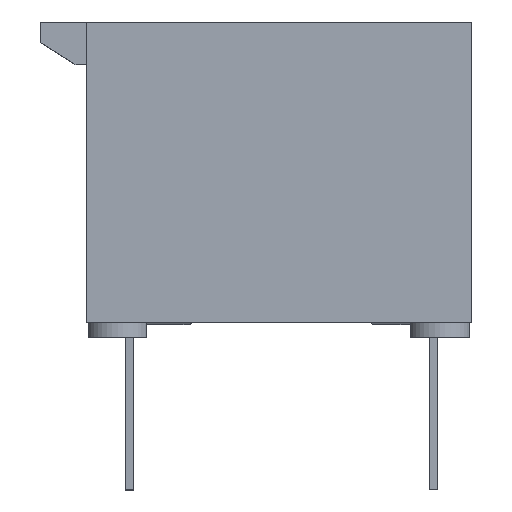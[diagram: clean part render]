
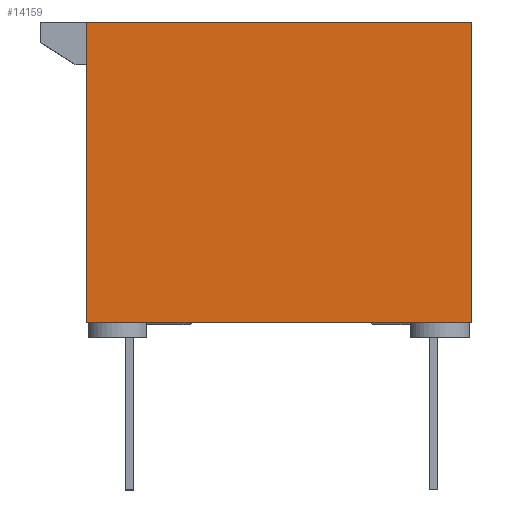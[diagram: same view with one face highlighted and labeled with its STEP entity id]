
A CAD part, top view. The second image highlights one B-rep face of the part: STEP entity #14159.
In plain terms, the highlighted planar face has unit normal (0, 0, 1).
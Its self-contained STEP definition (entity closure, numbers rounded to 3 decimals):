
#420 = CARTESIAN_POINT ( 'NONE',  ( 4.763, 7.518, 0. ) ) ;
#465 = CARTESIAN_POINT ( 'NONE',  ( -4.407, 0., 0. ) ) ;
#689 = EDGE_CURVE ( 'NONE', #6409, #12894, #8192, .T. ) ;
#838 = CARTESIAN_POINT ( 'NONE',  ( -4.407, 0., 0. ) ) ;
#1106 = VECTOR ( 'NONE', #10083, 1000. ) ;
#1707 = EDGE_CURVE ( 'NONE', #13193, #6409, #5236, .T. ) ;
#1801 = EDGE_CURVE ( 'NONE', #12894, #2732, #11274, .T. ) ;
#1875 = CARTESIAN_POINT ( 'NONE',  ( 4.763, 7.518, 0. ) ) ;
#2042 = CARTESIAN_POINT ( 'NONE',  ( -4.102, 0., 0. ) ) ;
#2065 = ORIENTED_EDGE ( 'NONE', *, *, #689, .T. ) ;
#2710 = CARTESIAN_POINT ( 'NONE',  ( 4.763, 0., 0. ) ) ;
#2732 = VERTEX_POINT ( 'NONE', #2042 ) ;
#3144 = FACE_OUTER_BOUND ( 'NONE', #11663, .T. ) ;
#3674 = LINE ( 'NONE', #465, #13138 ) ;
#4337 = VECTOR ( 'NONE', #5351, 1000. ) ;
#4594 = CARTESIAN_POINT ( 'NONE',  ( -4.89, 7.518, 0. ) ) ;
#5051 = ORIENTED_EDGE ( 'NONE', *, *, #6471, .T. ) ;
#5236 = LINE ( 'NONE', #1875, #9202 ) ;
#5351 = DIRECTION ( 'NONE',  ( 1., 0., 0. ) ) ;
#5355 = VECTOR ( 'NONE', #11748, 1000. ) ;
#5475 = CARTESIAN_POINT ( 'NONE',  ( 4.763, 0., 0. ) ) ;
#6137 = CARTESIAN_POINT ( 'NONE',  ( -4.889, 0., 0. ) ) ;
#6213 = VERTEX_POINT ( 'NONE', #2710 ) ;
#6236 = VERTEX_POINT ( 'NONE', #11972 ) ;
#6409 = VERTEX_POINT ( 'NONE', #4594 ) ;
#6471 = EDGE_CURVE ( 'NONE', #2732, #6236, #3674, .T. ) ;
#6926 = AXIS2_PLACEMENT_3D ( 'NONE', #7874, #8021, #12489 ) ;
#7191 = ORIENTED_EDGE ( 'NONE', *, *, #1707, .T. ) ;
#7557 = ORIENTED_EDGE ( 'NONE', *, *, #13240, .T. ) ;
#7747 = EDGE_CURVE ( 'NONE', #6213, #13193, #11247, .T. ) ;
#7874 = CARTESIAN_POINT ( 'NONE',  ( -4.889, 0., 0. ) ) ;
#8021 = DIRECTION ( 'NONE',  ( 0., 0., -1. ) ) ;
#8192 = LINE ( 'NONE', #8336, #5355 ) ;
#8320 = DIRECTION ( 'NONE',  ( 1., 0., 0. ) ) ;
#8336 = CARTESIAN_POINT ( 'NONE',  ( -4.889, 0., 0. ) ) ;
#9202 = VECTOR ( 'NONE', #14514, 1000. ) ;
#9687 = ORIENTED_EDGE ( 'NONE', *, *, #1801, .T. ) ;
#10083 = DIRECTION ( 'NONE',  ( 0., 1., 0. ) ) ;
#10263 = PLANE ( 'NONE',  #6926 ) ;
#10346 = ORIENTED_EDGE ( 'NONE', *, *, #7747, .T. ) ;
#11247 = LINE ( 'NONE', #5475, #1106 ) ;
#11274 = LINE ( 'NONE', #838, #4337 ) ;
#11663 = EDGE_LOOP ( 'NONE', ( #7191, #2065, #9687, #5051, #7557, #10346 ) ) ;
#11748 = DIRECTION ( 'NONE',  ( 0., -1., 0. ) ) ;
#11972 = CARTESIAN_POINT ( 'NONE',  ( 3.975, 0., 0. ) ) ;
#12133 = DIRECTION ( 'NONE',  ( 1., 0., 0. ) ) ;
#12489 = DIRECTION ( 'NONE',  ( -1., 0., 0. ) ) ;
#12894 = VERTEX_POINT ( 'NONE', #6137 ) ;
#12964 = VECTOR ( 'NONE', #12133, 1000. ) ;
#13138 = VECTOR ( 'NONE', #8320, 1000. ) ;
#13193 = VERTEX_POINT ( 'NONE', #420 ) ;
#13240 = EDGE_CURVE ( 'NONE', #6236, #6213, #14501, .T. ) ;
#14159 = ADVANCED_FACE ( 'NONE', ( #3144 ), #10263, .F. ) ;
#14354 = CARTESIAN_POINT ( 'NONE',  ( -4.407, 0., 0. ) ) ;
#14501 = LINE ( 'NONE', #14354, #12964 ) ;
#14514 = DIRECTION ( 'NONE',  ( -1., 0., 0. ) ) ;
